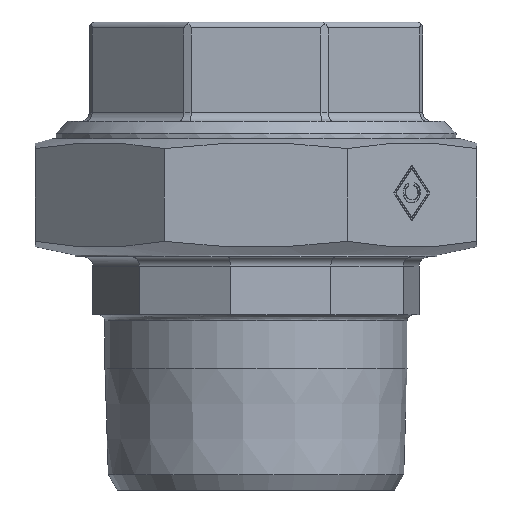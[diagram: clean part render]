
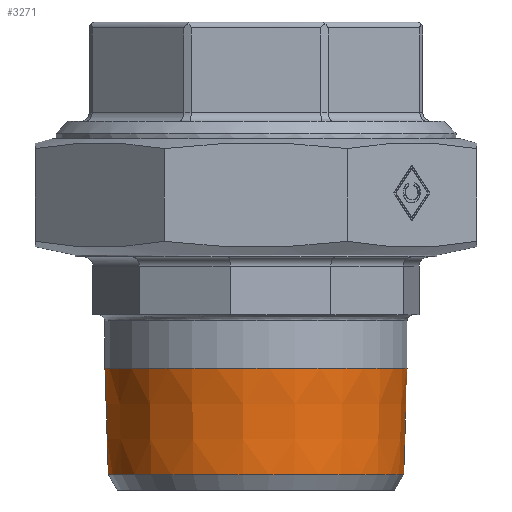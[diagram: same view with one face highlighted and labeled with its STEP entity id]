
A CAD part, front view. The second image highlights one B-rep face of the part: STEP entity #3271.
In plain terms, the highlighted conical face has half-angle 1.8 degrees and reference radius 38 mm.
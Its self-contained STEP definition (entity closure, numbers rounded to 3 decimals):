
#3244=CARTESIAN_POINT('',(0.,0.,-44.4));
#3245=DIRECTION('',(0.,0.,1.0));
#3246=DIRECTION('',(0.707,0.707,0.));
#3247=AXIS2_PLACEMENT_3D('',#3244,#3245,#3246);
#3248=CONICAL_SURFACE('',#3247,38.0,1.8);
#3249=CARTESIAN_POINT('',(-26.87,-26.87,-44.4));
#3250=VERTEX_POINT('',#3249);
#3251=CARTESIAN_POINT('',(0.,0.,-44.4));
#3252=DIRECTION('',(0.,0.,1.0));
#3253=DIRECTION('',(0.707,0.707,0.));
#3254=AXIS2_PLACEMENT_3D('',#3251,#3252,#3253);
#3255=CIRCLE('',#3254,38.0);
#3256=EDGE_CURVE('',#3250,#3250,#3255,.T.);
#3257=ORIENTED_EDGE('',*,*,#3256,.F.);
#3258=EDGE_LOOP('',(#3257));
#3259=FACE_OUTER_BOUND('',#3258,.T.);
#3260=CARTESIAN_POINT('',(-26.277,-26.277,-71.077));
#3261=VERTEX_POINT('',#3260);
#3262=CARTESIAN_POINT('',(0.,0.,-71.077));
#3263=DIRECTION('',(0.,0.,-1.0));
#3264=DIRECTION('',(0.707,0.707,0.));
#3265=AXIS2_PLACEMENT_3D('',#3262,#3263,#3264);
#3266=CIRCLE('',#3265,37.162);
#3267=EDGE_CURVE('',#3261,#3261,#3266,.T.);
#3268=ORIENTED_EDGE('',*,*,#3267,.F.);
#3269=EDGE_LOOP('',(#3268));
#3270=FACE_BOUND('',#3269,.T.);
#3271=ADVANCED_FACE('',(#3259,#3270),#3248,.T.);
